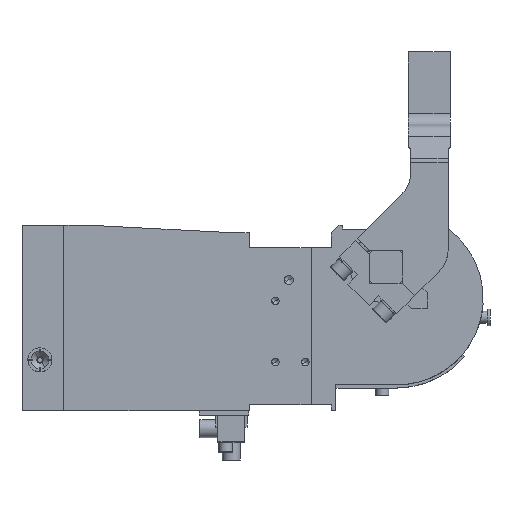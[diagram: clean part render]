
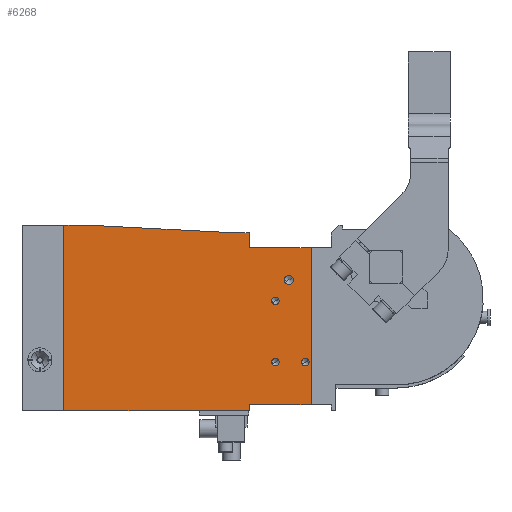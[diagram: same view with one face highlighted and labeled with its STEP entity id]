
A CAD part, top view. The second image highlights one B-rep face of the part: STEP entity #6268.
In plain terms, the highlighted planar face has unit normal (0, 0, 1).
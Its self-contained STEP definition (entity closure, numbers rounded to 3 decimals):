
#4699=AXIS2_PLACEMENT_3D('Circle Axis2P3D',#4697,#4698,$) ;
#4726=AXIS2_PLACEMENT_3D('Circle Axis2P3D',#4724,#4725,$) ;
#4753=AXIS2_PLACEMENT_3D('Circle Axis2P3D',#4751,#4752,$) ;
#4780=AXIS2_PLACEMENT_3D('Circle Axis2P3D',#4778,#4779,$) ;
#4807=AXIS2_PLACEMENT_3D('Circle Axis2P3D',#4805,#4806,$) ;
#4834=AXIS2_PLACEMENT_3D('Circle Axis2P3D',#4832,#4833,$) ;
#4861=AXIS2_PLACEMENT_3D('Circle Axis2P3D',#4859,#4860,$) ;
#4888=AXIS2_PLACEMENT_3D('Circle Axis2P3D',#4886,#4887,$) ;
#6219=AXIS2_PLACEMENT_3D('Plane Axis2P3D',#6216,#6217,#6218) ;
#37=CARTESIAN_POINT('Line Origine',(-215.5,-34.,27.)) ;
#41=CARTESIAN_POINT('Vertex',(-215.5,-96.,27.)) ;
#43=CARTESIAN_POINT('Vertex',(-215.5,28.,27.)) ;
#4694=CARTESIAN_POINT('Vertex',(-74.,-61.,27.)) ;
#4697=CARTESIAN_POINT('Axis2P3D Location',(-74.,-63.5,27.)) ;
#4701=CARTESIAN_POINT('Vertex',(-74.,-66.,27.)) ;
#4724=CARTESIAN_POINT('Axis2P3D Location',(-74.,-63.5,27.)) ;
#4748=CARTESIAN_POINT('Vertex',(-54.,-61.,27.)) ;
#4751=CARTESIAN_POINT('Axis2P3D Location',(-54.,-63.5,27.)) ;
#4755=CARTESIAN_POINT('Vertex',(-54.,-66.,27.)) ;
#4778=CARTESIAN_POINT('Axis2P3D Location',(-54.,-63.5,27.)) ;
#4802=CARTESIAN_POINT('Vertex',(-74.,-20.,27.)) ;
#4805=CARTESIAN_POINT('Axis2P3D Location',(-74.,-22.5,27.)) ;
#4809=CARTESIAN_POINT('Vertex',(-74.,-25.,27.)) ;
#4832=CARTESIAN_POINT('Axis2P3D Location',(-74.,-22.5,27.)) ;
#4856=CARTESIAN_POINT('Vertex',(-65.,-5.5,27.)) ;
#4859=CARTESIAN_POINT('Axis2P3D Location',(-65.,-8.5,27.)) ;
#4863=CARTESIAN_POINT('Vertex',(-65.,-11.5,27.)) ;
#4886=CARTESIAN_POINT('Axis2P3D Location',(-65.,-8.5,27.)) ;
#4911=CARTESIAN_POINT('Line Origine',(-96.5,23.,27.)) ;
#4915=CARTESIAN_POINT('Vertex',(-101.5,23.,27.)) ;
#4917=CARTESIAN_POINT('Vertex',(-91.5,23.,27.)) ;
#4951=CARTESIAN_POINT('Line Origine',(-149.203,25.5,27.)) ;
#4955=CARTESIAN_POINT('Vertex',(-196.906,28.,27.)) ;
#4982=CARTESIAN_POINT('Line Origine',(-206.203,28.,27.)) ;
#5004=CARTESIAN_POINT('Line Origine',(-153.5,-96.,27.)) ;
#5008=CARTESIAN_POINT('Vertex',(-91.5,-96.,27.)) ;
#5787=CARTESIAN_POINT('Line Origine',(-91.5,18.,27.)) ;
#5791=CARTESIAN_POINT('Vertex',(-91.5,13.,27.)) ;
#6197=CARTESIAN_POINT('Line Origine',(-91.5,-94.,27.)) ;
#6201=CARTESIAN_POINT('Vertex',(-91.5,-92.,27.)) ;
#6216=CARTESIAN_POINT('Axis2P3D Location',(0.,0.,27.)) ;
#6221=CARTESIAN_POINT('Line Origine',(-70.8,-92.,27.)) ;
#6225=CARTESIAN_POINT('Vertex',(-50.1,-92.,27.)) ;
#6228=CARTESIAN_POINT('Line Origine',(-50.1,-39.5,27.)) ;
#6232=CARTESIAN_POINT('Vertex',(-50.1,13.,27.)) ;
#6235=CARTESIAN_POINT('Line Origine',(-70.8,13.,27.)) ;
#38=DIRECTION('Vector Direction',(0.,-1.,0.)) ;
#4698=DIRECTION('Axis2P3D Direction',(-0.,0.,1.)) ;
#4725=DIRECTION('Axis2P3D Direction',(-0.,0.,1.)) ;
#4752=DIRECTION('Axis2P3D Direction',(-0.,0.,1.)) ;
#4779=DIRECTION('Axis2P3D Direction',(-0.,0.,1.)) ;
#4806=DIRECTION('Axis2P3D Direction',(-0.,0.,1.)) ;
#4833=DIRECTION('Axis2P3D Direction',(-0.,0.,1.)) ;
#4860=DIRECTION('Axis2P3D Direction',(-0.,0.,1.)) ;
#4887=DIRECTION('Axis2P3D Direction',(-0.,0.,1.)) ;
#4912=DIRECTION('Vector Direction',(1.,0.,0.)) ;
#4952=DIRECTION('Vector Direction',(0.999,-0.052,0.)) ;
#4983=DIRECTION('Vector Direction',(1.,0.,0.)) ;
#5005=DIRECTION('Vector Direction',(1.,0.,0.)) ;
#5788=DIRECTION('Vector Direction',(0.,-1.,0.)) ;
#6198=DIRECTION('Vector Direction',(0.,-1.,0.)) ;
#6217=DIRECTION('Axis2P3D Direction',(-0.,0.,-1.)) ;
#6218=DIRECTION('Axis2P3D XDirection',(-1.,0.,0.)) ;
#6222=DIRECTION('Vector Direction',(1.,0.,0.)) ;
#6229=DIRECTION('Vector Direction',(0.,-1.,0.)) ;
#6236=DIRECTION('Vector Direction',(1.,0.,0.)) ;
#39=VECTOR('Line Direction',#38,1.) ;
#4913=VECTOR('Line Direction',#4912,1.) ;
#4953=VECTOR('Line Direction',#4952,1.) ;
#4984=VECTOR('Line Direction',#4983,1.) ;
#5006=VECTOR('Line Direction',#5005,1.) ;
#5789=VECTOR('Line Direction',#5788,1.) ;
#6199=VECTOR('Line Direction',#6198,1.) ;
#6223=VECTOR('Line Direction',#6222,1.) ;
#6230=VECTOR('Line Direction',#6229,1.) ;
#6237=VECTOR('Line Direction',#6236,1.) ;
#6241=ORIENTED_EDGE('',*,*,#6227,.F.) ;
#6242=ORIENTED_EDGE('',*,*,#6234,.F.) ;
#6243=ORIENTED_EDGE('',*,*,#6239,.F.) ;
#6244=ORIENTED_EDGE('',*,*,#5793,.F.) ;
#6245=ORIENTED_EDGE('',*,*,#4919,.F.) ;
#6246=ORIENTED_EDGE('',*,*,#4957,.F.) ;
#6247=ORIENTED_EDGE('',*,*,#4986,.F.) ;
#6248=ORIENTED_EDGE('',*,*,#45,.F.) ;
#6249=ORIENTED_EDGE('',*,*,#5010,.F.) ;
#6250=ORIENTED_EDGE('',*,*,#6203,.F.) ;
#6253=ORIENTED_EDGE('',*,*,#4865,.F.) ;
#6254=ORIENTED_EDGE('',*,*,#4890,.F.) ;
#6257=ORIENTED_EDGE('',*,*,#4811,.F.) ;
#6258=ORIENTED_EDGE('',*,*,#4836,.F.) ;
#6261=ORIENTED_EDGE('',*,*,#4757,.F.) ;
#6262=ORIENTED_EDGE('',*,*,#4782,.F.) ;
#6265=ORIENTED_EDGE('',*,*,#4703,.F.) ;
#6266=ORIENTED_EDGE('',*,*,#4728,.F.) ;
#6255=FACE_BOUND('',#6252,.T.) ;
#6259=FACE_BOUND('',#6256,.T.) ;
#6263=FACE_BOUND('',#6260,.T.) ;
#6267=FACE_BOUND('',#6264,.T.) ;
#6268=ADVANCED_FACE('APH_63_H_BR5_A00_T12_TUENKERS',(#6251,#6255,#6259,#6263,#6267),#6220,.F.) ;
#4700=CIRCLE('generated circle',#4699,2.5) ;
#4727=CIRCLE('generated circle',#4726,2.5) ;
#4754=CIRCLE('generated circle',#4753,2.5) ;
#4781=CIRCLE('generated circle',#4780,2.5) ;
#4808=CIRCLE('generated circle',#4807,2.5) ;
#4835=CIRCLE('generated circle',#4834,2.5) ;
#4862=CIRCLE('generated circle',#4861,3.) ;
#4889=CIRCLE('generated circle',#4888,3.) ;
#45=EDGE_CURVE('',#42,#44,#40,.F.) ;
#4703=EDGE_CURVE('',#4695,#4702,#4700,.T.) ;
#4728=EDGE_CURVE('',#4702,#4695,#4727,.T.) ;
#4757=EDGE_CURVE('',#4749,#4756,#4754,.T.) ;
#4782=EDGE_CURVE('',#4756,#4749,#4781,.T.) ;
#4811=EDGE_CURVE('',#4803,#4810,#4808,.T.) ;
#4836=EDGE_CURVE('',#4810,#4803,#4835,.T.) ;
#4865=EDGE_CURVE('',#4857,#4864,#4862,.T.) ;
#4890=EDGE_CURVE('',#4864,#4857,#4889,.T.) ;
#4919=EDGE_CURVE('',#4916,#4918,#4914,.T.) ;
#4957=EDGE_CURVE('',#4956,#4916,#4954,.T.) ;
#4986=EDGE_CURVE('',#44,#4956,#4985,.T.) ;
#5010=EDGE_CURVE('',#5009,#42,#5007,.F.) ;
#5793=EDGE_CURVE('',#4918,#5792,#5790,.T.) ;
#6203=EDGE_CURVE('',#6202,#5009,#6200,.T.) ;
#6227=EDGE_CURVE('',#6226,#6202,#6224,.F.) ;
#6234=EDGE_CURVE('',#6233,#6226,#6231,.T.) ;
#6239=EDGE_CURVE('',#5792,#6233,#6238,.T.) ;
#6240=EDGE_LOOP('',(#6241,#6242,#6243,#6244,#6245,#6246,#6247,#6248,#6249,#6250)) ;
#6252=EDGE_LOOP('',(#6253,#6254)) ;
#6256=EDGE_LOOP('',(#6257,#6258)) ;
#6260=EDGE_LOOP('',(#6261,#6262)) ;
#6264=EDGE_LOOP('',(#6265,#6266)) ;
#6251=FACE_OUTER_BOUND('',#6240,.T.) ;
#40=LINE('Line',#37,#39) ;
#4914=LINE('Line',#4911,#4913) ;
#4954=LINE('Line',#4951,#4953) ;
#4985=LINE('Line',#4982,#4984) ;
#5007=LINE('Line',#5004,#5006) ;
#5790=LINE('Line',#5787,#5789) ;
#6200=LINE('Line',#6197,#6199) ;
#6224=LINE('Line',#6221,#6223) ;
#6231=LINE('Line',#6228,#6230) ;
#6238=LINE('Line',#6235,#6237) ;
#6220=PLANE('Plane',#6219) ;
#42=VERTEX_POINT('',#41) ;
#44=VERTEX_POINT('',#43) ;
#4695=VERTEX_POINT('',#4694) ;
#4702=VERTEX_POINT('',#4701) ;
#4749=VERTEX_POINT('',#4748) ;
#4756=VERTEX_POINT('',#4755) ;
#4803=VERTEX_POINT('',#4802) ;
#4810=VERTEX_POINT('',#4809) ;
#4857=VERTEX_POINT('',#4856) ;
#4864=VERTEX_POINT('',#4863) ;
#4916=VERTEX_POINT('',#4915) ;
#4918=VERTEX_POINT('',#4917) ;
#4956=VERTEX_POINT('',#4955) ;
#5009=VERTEX_POINT('',#5008) ;
#5792=VERTEX_POINT('',#5791) ;
#6202=VERTEX_POINT('',#6201) ;
#6226=VERTEX_POINT('',#6225) ;
#6233=VERTEX_POINT('',#6232) ;
